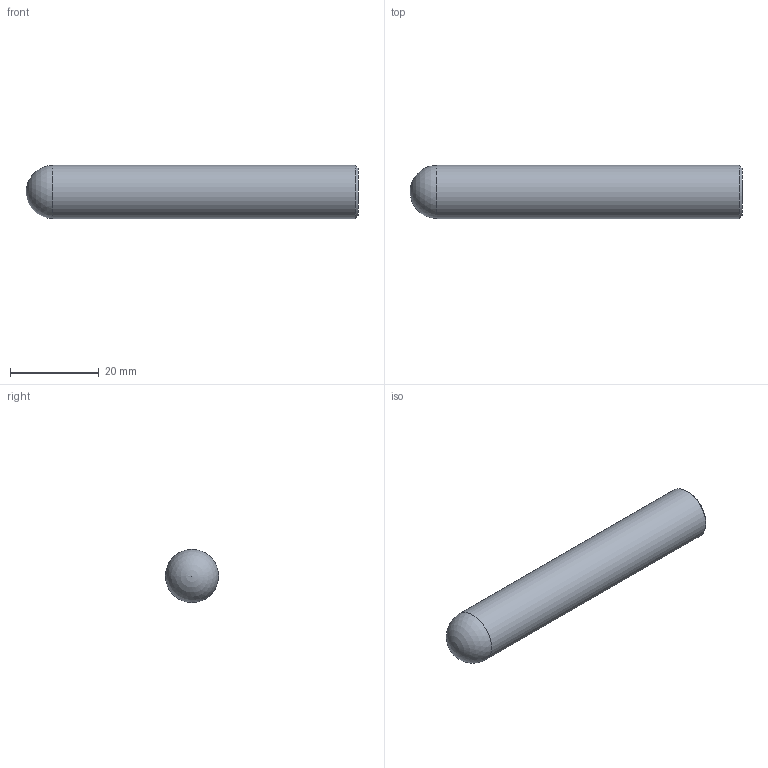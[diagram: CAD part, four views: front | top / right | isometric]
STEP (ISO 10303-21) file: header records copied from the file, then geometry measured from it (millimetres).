
FILE_DESCRIPTION(/* description */ (''),/* implementation_level */ '2;1');
FILE_NAME(/* name */ 'HSXB2120 1275.stp',/* time_stamp */ '2026-08-03T10:12:08+08:00',/* author */ (''),/* organization */ (''),/* preprocessor_version */ 'ST-DEVELOPER v16',/* originating_system */ 'SIEMENS PLM Software NX 10.0',/* authorisation */ '');
FILE_SCHEMA (('CONFIG_CONTROL_DESIGN'));
Length unit declared in the file: millimetre
Products named in the file (1): HSXB2120 1275_dxf
Bounding box: 75 x 12 x 12 mm (x, y, z)
Volume: 8249.5 mm3; surface area: 2926.8 mm2
Topology: 1 solids, 1 shells, 4 faces, 8 edges, 5 vertices
Faces by surface type: plane 1, sphere 1, cylinder 1, cone 1
Full cylindrical faces by diameter (mm): 12 x1
Entity records: 158 total; most frequent: DIRECTION 16, CARTESIAN_POINT 11, AXIS2_PLACEMENT_3D 8, PERSON_AND_ORGANIZATION 7, ORGANIZATION 7, EDGE_LOOP 6, ORIENTED_EDGE 6, DATE_AND_TIME 5
